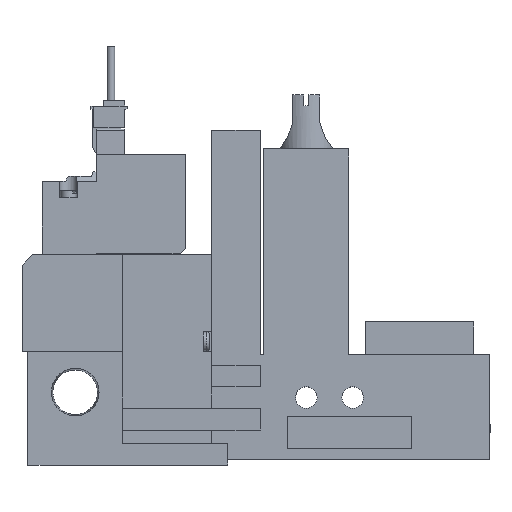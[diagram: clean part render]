
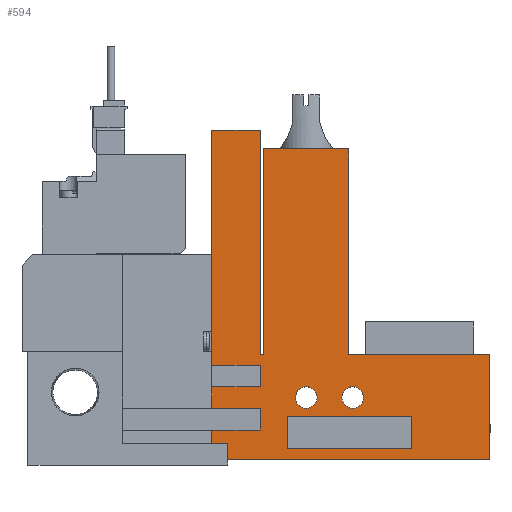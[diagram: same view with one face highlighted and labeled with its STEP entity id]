
A CAD part, top view. The second image highlights one B-rep face of the part: STEP entity #594.
In plain terms, the highlighted planar face has unit normal (0, 0, 1).
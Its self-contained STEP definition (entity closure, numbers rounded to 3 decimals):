
#594=ADVANCED_FACE('',(#1239,#1240,#1241,#1242),#1243,.T.);
#1239=FACE_OUTER_BOUND('',#2001,.T.);
#1240=FACE_BOUND('',#2002,.T.);
#1241=FACE_BOUND('',#2003,.T.);
#1242=FACE_BOUND('',#2004,.T.);
#1243=PLANE('',#2005);
#2001=EDGE_LOOP('',(#4427,#4428,#4429,#4430,#4431,#4432,#4433,#4434,#4435,#4436,#4437,#4438,#4439,#4440,#4441,#4442,#4443,#4444));
#2002=EDGE_LOOP('',(#4445,#4446,#4447,#4448));
#2003=EDGE_LOOP('',(#4449));
#2004=EDGE_LOOP('',(#4450));
#2005=AXIS2_PLACEMENT_3D('',#4451,#4452,#4453);
#4427=ORIENTED_EDGE('',*,*,#5729,.T.);
#4428=ORIENTED_EDGE('',*,*,#5700,.T.);
#4429=ORIENTED_EDGE('',*,*,#5752,.T.);
#4430=ORIENTED_EDGE('',*,*,#5753,.T.);
#4431=ORIENTED_EDGE('',*,*,#5591,.T.);
#4432=ORIENTED_EDGE('',*,*,#5754,.T.);
#4433=ORIENTED_EDGE('',*,*,#5755,.T.);
#4434=ORIENTED_EDGE('',*,*,#5601,.T.);
#4435=ORIENTED_EDGE('',*,*,#5588,.T.);
#4436=ORIENTED_EDGE('',*,*,#5671,.T.);
#4437=ORIENTED_EDGE('',*,*,#5720,.T.);
#4438=ORIENTED_EDGE('',*,*,#5756,.T.);
#4439=ORIENTED_EDGE('',*,*,#5757,.T.);
#4440=ORIENTED_EDGE('',*,*,#5758,.T.);
#4441=ORIENTED_EDGE('',*,*,#5707,.T.);
#4442=ORIENTED_EDGE('',*,*,#5751,.T.);
#4443=ORIENTED_EDGE('',*,*,#5759,.T.);
#4444=ORIENTED_EDGE('',*,*,#5760,.T.);
#4445=ORIENTED_EDGE('',*,*,#5761,.T.);
#4446=ORIENTED_EDGE('',*,*,#5654,.T.);
#4447=ORIENTED_EDGE('',*,*,#5697,.T.);
#4448=ORIENTED_EDGE('',*,*,#5631,.T.);
#4449=ORIENTED_EDGE('',*,*,#5701,.T.);
#4450=ORIENTED_EDGE('',*,*,#5714,.T.);
#4451=CARTESIAN_POINT('',(0.0,0.0,10.0));
#4452=DIRECTION('',(0.0,0.0,1.0));
#4453=DIRECTION('',(1.0,0.0,0.0));
#5588=EDGE_CURVE('',#6877,#6881,#6883,.T.);
#5591=EDGE_CURVE('',#6889,#6887,#6890,.T.);
#5601=EDGE_CURVE('',#6907,#6877,#6908,.T.);
#5631=EDGE_CURVE('',#6960,#6965,#6967,.T.);
#5654=EDGE_CURVE('',#7000,#7005,#7007,.T.);
#5671=EDGE_CURVE('',#6881,#7037,#7039,.T.);
#5697=EDGE_CURVE('',#7005,#6960,#7081,.T.);
#5700=EDGE_CURVE('',#7082,#7084,#7086,.T.);
#5701=EDGE_CURVE('',#7087,#7087,#7088,.T.);
#5707=EDGE_CURVE('',#7099,#7097,#7100,.T.);
#5714=EDGE_CURVE('',#7110,#7110,#7111,.T.);
#5720=EDGE_CURVE('',#7037,#7117,#7119,.T.);
#5729=EDGE_CURVE('',#7132,#7082,#7133,.T.);
#5751=EDGE_CURVE('',#7097,#7161,#7163,.T.);
#5752=EDGE_CURVE('',#7084,#7164,#7165,.T.);
#5753=EDGE_CURVE('',#7164,#6889,#7166,.T.);
#5754=EDGE_CURVE('',#6887,#7167,#7168,.T.);
#5755=EDGE_CURVE('',#7167,#6907,#7169,.T.);
#5756=EDGE_CURVE('',#7117,#7170,#7171,.T.);
#5757=EDGE_CURVE('',#7170,#7172,#7173,.T.);
#5758=EDGE_CURVE('',#7172,#7099,#7174,.T.);
#5759=EDGE_CURVE('',#7161,#7175,#7176,.T.);
#5760=EDGE_CURVE('',#7175,#7132,#7177,.T.);
#5761=EDGE_CURVE('',#6965,#7000,#7178,.T.);
#6877=VERTEX_POINT('',#8960);
#6881=VERTEX_POINT('',#8966);
#6883=LINE('',#8969,#8970);
#6887=VERTEX_POINT('',#8975);
#6889=VERTEX_POINT('',#8978);
#6890=LINE('',#8979,#8980);
#6907=VERTEX_POINT('',#9004);
#6908=LINE('',#9005,#9006);
#6960=VERTEX_POINT('',#9082);
#6965=VERTEX_POINT('',#9089);
#6967=LINE('',#9092,#9093);
#7000=VERTEX_POINT('',#9142);
#7005=VERTEX_POINT('',#9149);
#7007=LINE('',#9152,#9153);
#7037=VERTEX_POINT('',#9197);
#7039=LINE('',#9200,#9201);
#7081=LINE('',#9266,#9267);
#7082=VERTEX_POINT('',#9268);
#7084=VERTEX_POINT('',#9271);
#7086=LINE('',#9274,#9275);
#7087=VERTEX_POINT('',#9276);
#7088=CIRCLE('',#9277,2.0);
#7097=VERTEX_POINT('',#9290);
#7099=VERTEX_POINT('',#9293);
#7100=LINE('',#9294,#9295);
#7110=VERTEX_POINT('',#9310);
#7111=CIRCLE('',#9311,2.0);
#7117=VERTEX_POINT('',#9321);
#7119=LINE('',#9324,#9325);
#7132=VERTEX_POINT('',#9345);
#7133=LINE('',#9346,#9347);
#7161=VERTEX_POINT('',#9392);
#7163=LINE('',#9395,#9396);
#7164=VERTEX_POINT('',#9397);
#7165=LINE('',#9398,#9399);
#7166=LINE('',#9400,#9401);
#7167=VERTEX_POINT('',#9402);
#7168=LINE('',#9403,#9404);
#7169=LINE('',#9405,#9406);
#7170=VERTEX_POINT('',#9407);
#7171=LINE('',#9408,#9409);
#7172=VERTEX_POINT('',#9410);
#7173=LINE('',#9411,#9412);
#7174=LINE('',#9413,#9414);
#7175=VERTEX_POINT('',#9415);
#7176=LINE('',#9416,#9417);
#7177=LINE('',#9418,#9419);
#7178=LINE('',#9420,#9421);
#8960=CARTESIAN_POINT('',(35.1,5.5,10.0));
#8966=CARTESIAN_POINT('',(35.1,0.0,10.0));
#8969=CARTESIAN_POINT('',(35.1,0.0,10.0));
#8970=VECTOR('',#10463,1.0);
#8975=CARTESIAN_POINT('',(35.1,9.5,10.0));
#8978=CARTESIAN_POINT('',(35.1,13.5,10.0));
#8979=CARTESIAN_POINT('',(35.1,0.0,10.0));
#8980=VECTOR('',#10466,1.0);
#9004=CARTESIAN_POINT('',(44.1,5.5,10.0));
#9005=CARTESIAN_POINT('',(0.0,5.5,10.0));
#9006=VECTOR('',#10480,1.0);
#9082=CARTESIAN_POINT('',(72.1,2.0,10.0));
#9089=CARTESIAN_POINT('',(49.1,2.0,10.0));
#9092=CARTESIAN_POINT('',(0.0,2.0,10.0));
#9093=VECTOR('',#10514,1.0);
#9142=CARTESIAN_POINT('',(49.1,8.0,10.0));
#9149=CARTESIAN_POINT('',(72.1,8.0,10.0));
#9152=CARTESIAN_POINT('',(0.0,8.0,10.0));
#9153=VECTOR('',#10543,1.0);
#9197=CARTESIAN_POINT('',(86.6,0.0,10.0));
#9200=CARTESIAN_POINT('',(18.6,0.0,10.0));
#9201=VECTOR('',#10562,1.0);
#9266=CARTESIAN_POINT('',(72.1,0.0,10.0));
#9267=VECTOR('',#10592,1.0);
#9268=CARTESIAN_POINT('',(35.1,17.5,10.0));
#9271=CARTESIAN_POINT('',(44.1,17.5,10.0));
#9274=CARTESIAN_POINT('',(0.0,17.5,10.0));
#9275=VECTOR('',#10595,1.0);
#9276=CARTESIAN_POINT('',(54.6,11.5,10.0));
#9277=AXIS2_PLACEMENT_3D('',#10596,#10597,#10598);
#9290=CARTESIAN_POINT('',(44.75,19.5,10.0));
#9293=CARTESIAN_POINT('',(44.75,57.5,10.0));
#9294=CARTESIAN_POINT('',(44.75,57.5,10.0));
#9295=VECTOR('',#10604,1.0);
#9310=CARTESIAN_POINT('',(63.2,11.5,10.0));
#9311=AXIS2_PLACEMENT_3D('',#10613,#10614,#10615);
#9321=CARTESIAN_POINT('',(86.6,19.5,10.0));
#9324=CARTESIAN_POINT('',(86.6,0.0,10.0));
#9325=VECTOR('',#10621,1.0);
#9345=CARTESIAN_POINT('',(35.1,61.0,10.0));
#9346=CARTESIAN_POINT('',(35.1,61.0,10.0));
#9347=VECTOR('',#10632,1.0);
#9392=CARTESIAN_POINT('',(44.1,19.5,10.0));
#9395=CARTESIAN_POINT('',(44.75,19.5,10.0));
#9396=VECTOR('',#10660,1.0);
#9397=CARTESIAN_POINT('',(44.1,13.5,10.0));
#9398=CARTESIAN_POINT('',(44.1,0.0,10.0));
#9399=VECTOR('',#10661,1.0);
#9400=CARTESIAN_POINT('',(0.0,13.5,10.0));
#9401=VECTOR('',#10662,1.0);
#9402=CARTESIAN_POINT('',(44.1,9.5,10.0));
#9403=CARTESIAN_POINT('',(0.0,9.5,10.0));
#9404=VECTOR('',#10663,1.0);
#9405=CARTESIAN_POINT('',(44.1,0.0,10.0));
#9406=VECTOR('',#10664,1.0);
#9407=CARTESIAN_POINT('',(60.45,19.5,10.0));
#9408=CARTESIAN_POINT('',(86.6,19.5,10.0));
#9409=VECTOR('',#10665,1.0);
#9410=CARTESIAN_POINT('',(60.45,57.5,10.0));
#9411=CARTESIAN_POINT('',(60.45,19.5,10.0));
#9412=VECTOR('',#10666,1.0);
#9413=CARTESIAN_POINT('',(60.45,57.5,10.0));
#9414=VECTOR('',#10667,1.0);
#9415=CARTESIAN_POINT('',(44.1,61.0,10.0));
#9416=CARTESIAN_POINT('',(44.1,19.5,10.0));
#9417=VECTOR('',#10668,1.0);
#9418=CARTESIAN_POINT('',(44.1,61.0,10.0));
#9419=VECTOR('',#10669,1.0);
#9420=CARTESIAN_POINT('',(49.1,0.0,10.0));
#9421=VECTOR('',#10670,1.0);
#10463=DIRECTION('',(0.0,-1.0,0.0));
#10466=DIRECTION('',(0.0,-1.0,0.0));
#10480=DIRECTION('',(-1.0,0.0,0.0));
#10514=DIRECTION('',(-1.0,0.0,0.0));
#10543=DIRECTION('',(1.0,0.0,0.0));
#10562=DIRECTION('',(1.0,0.0,0.0));
#10592=DIRECTION('',(0.0,-1.0,0.0));
#10595=DIRECTION('',(1.0,0.0,0.0));
#10596=CARTESIAN_POINT('',(52.6,11.5,10.0));
#10597=DIRECTION('',(0.0,0.0,-1.0));
#10598=DIRECTION('',(1.0,0.0,0.0));
#10604=DIRECTION('',(0.0,-1.0,0.0));
#10613=CARTESIAN_POINT('',(61.2,11.5,10.0));
#10614=DIRECTION('',(0.0,0.0,-1.0));
#10615=DIRECTION('',(1.0,0.0,0.0));
#10621=DIRECTION('',(0.0,1.0,0.0));
#10632=DIRECTION('',(0.0,-1.0,0.0));
#10660=DIRECTION('',(-1.0,0.0,0.0));
#10661=DIRECTION('',(0.0,-1.0,0.0));
#10662=DIRECTION('',(-1.0,0.0,0.0));
#10663=DIRECTION('',(1.0,0.0,0.0));
#10664=DIRECTION('',(0.0,-1.0,0.0));
#10665=DIRECTION('',(-1.0,0.0,0.0));
#10666=DIRECTION('',(0.0,1.0,0.0));
#10667=DIRECTION('',(-1.0,0.0,0.0));
#10668=DIRECTION('',(0.0,1.0,0.0));
#10669=DIRECTION('',(-1.0,0.0,0.0));
#10670=DIRECTION('',(0.0,1.0,0.0));
